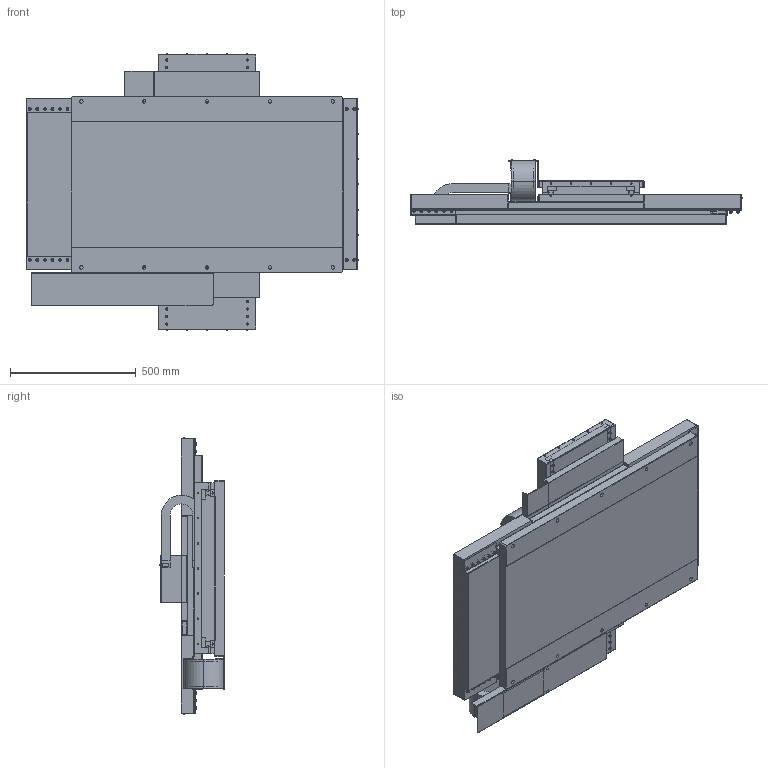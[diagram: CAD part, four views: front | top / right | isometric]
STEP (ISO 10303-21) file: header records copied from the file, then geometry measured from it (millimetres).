
FILE_DESCRIPTION (( 'STEP AP214' ), '1' );
FILE_NAME ('NST-D60B545A5BPJB_#2.00_0.STEP', '2021-04-16T00:53:15', ( '' ), ( '' ), 'SwSTEP 2.0', 'SolidWorks 2018', '' );
FILE_SCHEMA (( 'AUTOMOTIVE_DESIGN' ));
Length unit declared in the file: millimetre
Products named in the file (9): AUA02710; AUA02600; NST-D60B545A5BPJB_#2.00_0; AUA02700; 18UK0010_-側_Org; 15UK0530; 15UK0550_+側_Org; 15GK0070; 15UK0550_-側_Org
Assembly tree (9 placements, depth 2):
  NST-D60B545A5BPJB_#2.00_0
    AUA02700
    AUA02710
    AUA02600
    15GK0070
    15UK0530
    18UK0010_-側_Org  x2
    15UK0550_+側_Org
    15UK0550_-側_Org
Bounding box: 1320 x 258 x 1100 mm (x, y, z)
Volume: 73429217.1 mm3; surface area: 8448251.9 mm2
Topology: 68 solids, 68 shells, 2983 faces, 7572 edges, 4829 vertices
Faces by surface type: plane 1883, cylinder 798, cone 146, torus 104, sphere 48, bspline 4
Entity records: 118779 total; most frequent: CARTESIAN_POINT 19906, DIRECTION 14738, ORIENTED_EDGE 14664, EDGE_CURVE 7332, AXIS2_PLACEMENT_3D 5001, LINE 4736, VECTOR 4736, VERTEX_POINT 4703
